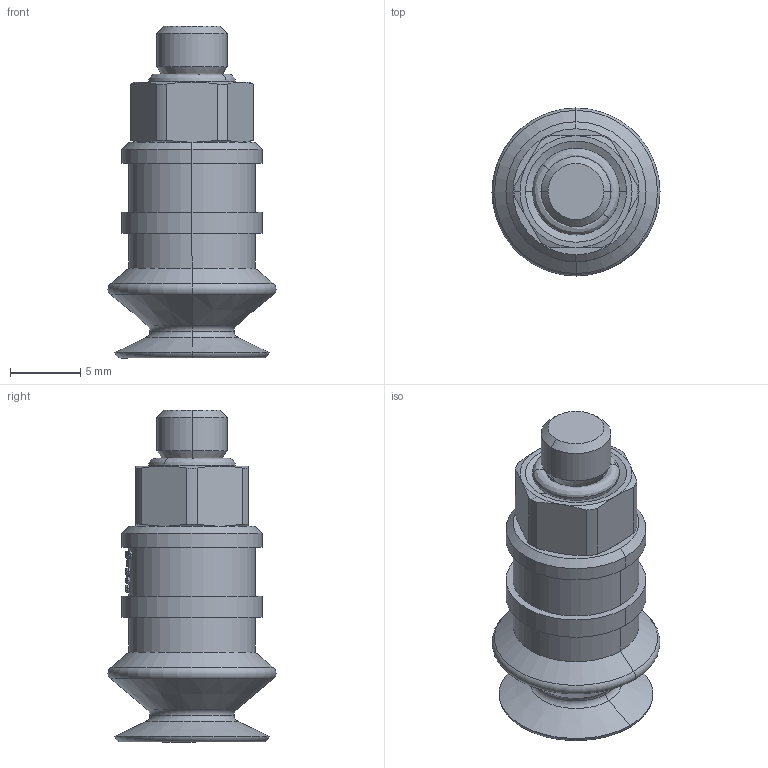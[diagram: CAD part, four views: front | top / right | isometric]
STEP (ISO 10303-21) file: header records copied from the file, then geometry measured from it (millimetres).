
FILE_DESCRIPTION (( 'STEP AP203' ), '1' );
FILE_NAME ('2321699.STEP', '2020-12-09T08:33:43', ( '' ), ( '' ), 'SwSTEP 2.0', 'SolidWorks 2020', '' );
FILE_SCHEMA (( 'CONFIG_CONTROL_DESIGN' ));
Length unit declared in the file: millimetre
Products named in the file (2): 2321699; Copia di 2321699-AS01^2321699
Assembly tree (1 placements, depth 2):
  2321699
    Copia di 2321699-AS01^2321699
Bounding box: 12 x 12 x 23.71 mm (x, y, z)
Volume: 1376.5 mm3; surface area: 1002.4 mm2
Topology: 2 solids, 2 shells, 135 faces, 314 edges, 195 vertices
Faces by surface type: cylinder 54, bspline 28, cone 28, plane 13, torus 12
Entity records: 5845 total; most frequent: CARTESIAN_POINT 2856, ORIENTED_EDGE 628, DIRECTION 519, EDGE_CURVE 314, AXIS2_PLACEMENT_3D 226, VERTEX_POINT 195, EDGE_LOOP 149, FACE_OUTER_BOUND 135
